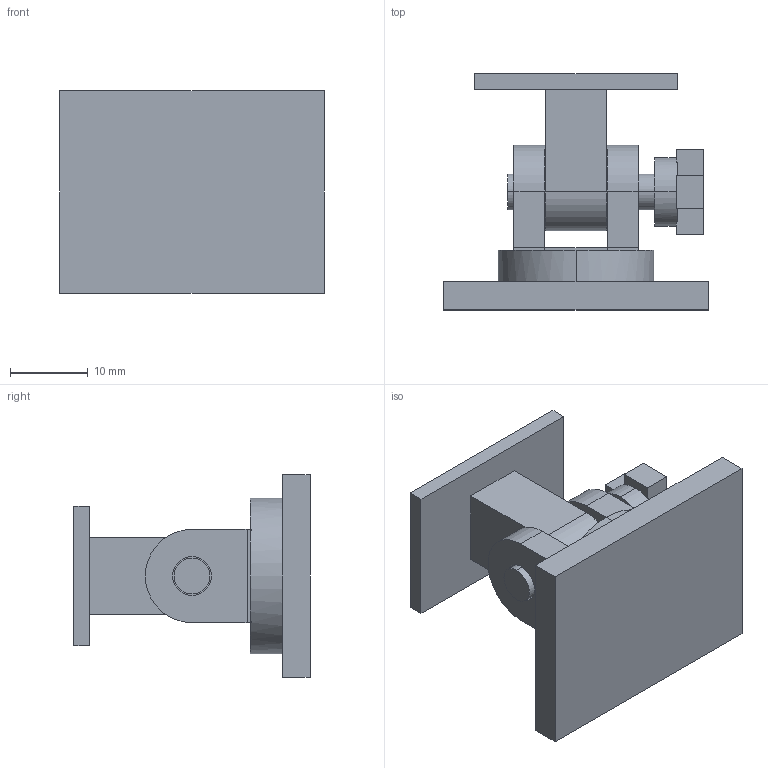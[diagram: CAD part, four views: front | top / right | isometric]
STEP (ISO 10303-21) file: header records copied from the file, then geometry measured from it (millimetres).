
FILE_DESCRIPTION(('Open CASCADE Model'),'2;1');
FILE_NAME('upper-arm-articulation.step','2026-11-14T14:32:01',('Author') ,('Open CASCADE'),'Open CASCADE STEP processor 8.0','Open CASCADE 8.0' ,'Unknown');
FILE_SCHEMA(('AP242_MANAGED_MODEL_BASED_3D_ENGINEERING_MIM_LF {1 0 10303 442 1 1 4 }' ));
Length unit declared in the file: millimetre
Products named in the file (1): Upper Arm Articulation
Bounding box: 34 x 30.4 x 26 mm (x, y, z)
Volume: 8439.9 mm3; surface area: 5978.5 mm2
Topology: 6 solids, 6 shells, 78 faces, 176 edges, 112 vertices
Faces by surface type: plane 63, cylinder 15
Entity records: 4559 total; most frequent: CARTESIAN_POINT 929, DIRECTION 693, LINE 444, VECTOR 444, ORIENTED_EDGE 352, PCURVE 352, DEFINITIONAL_REPRESENTATION 352, EDGE_CURVE 176
